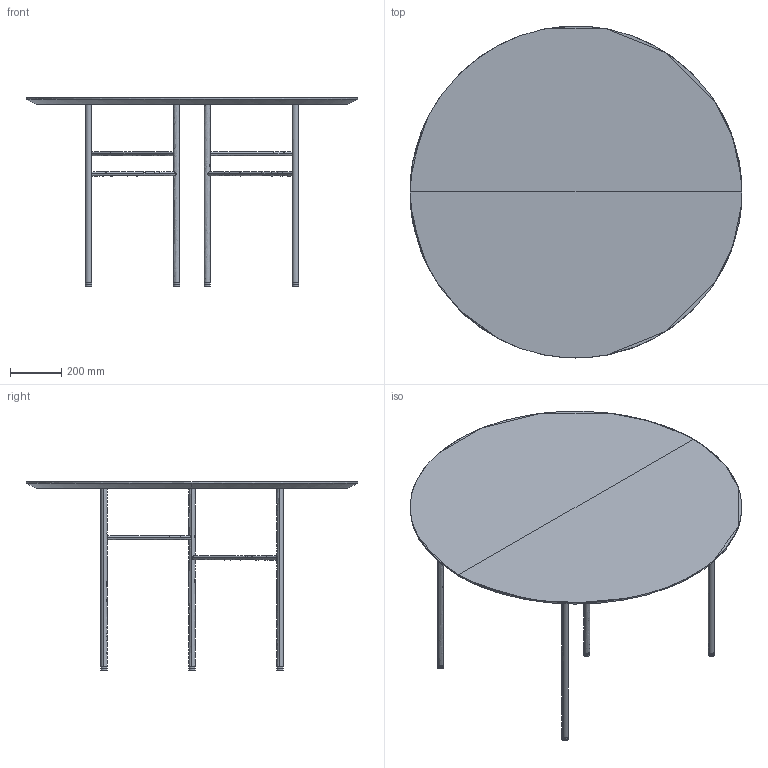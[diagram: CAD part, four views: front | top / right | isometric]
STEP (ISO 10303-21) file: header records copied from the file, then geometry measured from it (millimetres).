
FILE_DESCRIPTION(/* description */ (''),/* implementation_level */ '2;1');
FILE_NAME(/* name */ 'MBXCRT~5',/* time_stamp */ '2018-07-23T13:11:43+02:00',/* author */ (''),/* organization */ (''),/* preprocessor_version */ 'ST-DEVELOPER v15',/* originating_system */ '',/* authorisation */ '');
FILE_SCHEMA (('AUTOMOTIVE_DESIGN'));
Length unit declared in the file: millimetre
Products named in the file (1): Document
Bounding box: 1300 x 1300 x 737.6 mm (x, y, z)
Volume: 32885642.5 mm3; surface area: 3551963.6 mm2
Topology: 9 solids, 9 shells, 202 faces, 452 edges, 300 vertices
Faces by surface type: bspline 202
Entity records: 15452 total; most frequent: CARTESIAN_POINT 9973, ORIENTED_EDGE 892, PCURVE 892, DEFINITIONAL_REPRESENTATION 892, B_SPLINE_CURVE_WITH_KNOTS 704, SURFACE_CURVE 446, EDGE_CURVE 446, EDGE_LOOP 298
